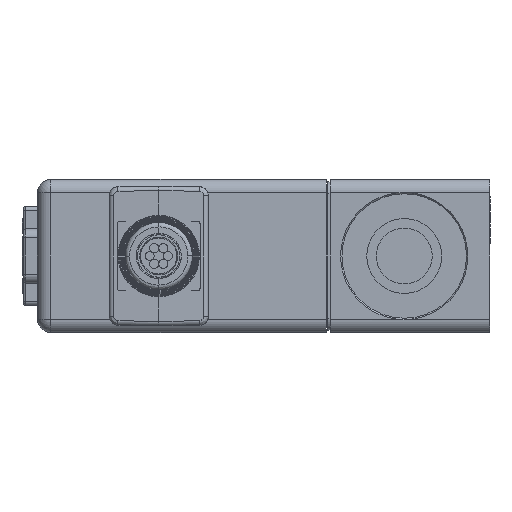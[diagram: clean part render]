
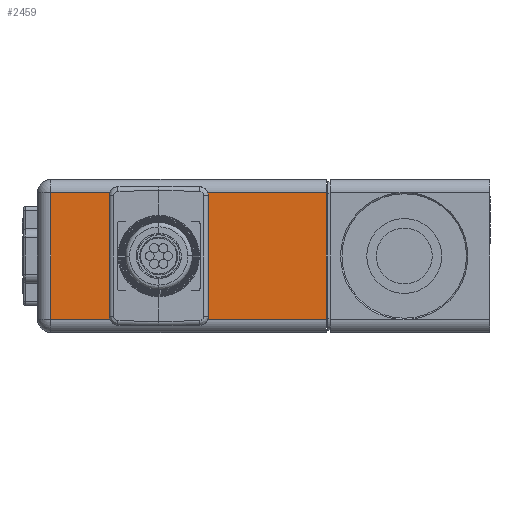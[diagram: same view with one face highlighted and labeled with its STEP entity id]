
A CAD part, left-side view. The second image highlights one B-rep face of the part: STEP entity #2459.
In plain terms, the highlighted planar face has unit normal (-1, 0, 0).
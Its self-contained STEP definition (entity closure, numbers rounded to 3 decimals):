
#2459=ADVANCED_FACE('',(#5244,#5245),#5246,.T.);
#5244=FACE_BOUND('',#10460,.T.);
#5245=FACE_OUTER_BOUND('',#10461,.T.);
#5246=PLANE('',#10462);
#10460=EDGE_LOOP('',(#17974,#17975,#17976,#17977,#17978,#17979,#17980,#17981,#17982,#17983,#17984,#17985,#17986,#17987));
#10461=EDGE_LOOP('',(#17988,#17989,#17990,#17991));
#10462=AXIS2_PLACEMENT_3D('',#17992,#17993,#17994);
#17974=ORIENTED_EDGE('',*,*,#24753,.F.);
#17975=ORIENTED_EDGE('',*,*,#24754,.F.);
#17976=ORIENTED_EDGE('',*,*,#24107,.T.);
#17977=ORIENTED_EDGE('',*,*,#24755,.F.);
#17978=ORIENTED_EDGE('',*,*,#24756,.T.);
#17979=ORIENTED_EDGE('',*,*,#24303,.F.);
#17980=ORIENTED_EDGE('',*,*,#24757,.F.);
#17981=ORIENTED_EDGE('',*,*,#24758,.T.);
#17982=ORIENTED_EDGE('',*,*,#24278,.F.);
#17983=ORIENTED_EDGE('',*,*,#23634,.F.);
#17984=ORIENTED_EDGE('',*,*,#24542,.T.);
#17985=ORIENTED_EDGE('',*,*,#24759,.F.);
#17986=ORIENTED_EDGE('',*,*,#23996,.T.);
#17987=ORIENTED_EDGE('',*,*,#24760,.F.);
#17988=ORIENTED_EDGE('',*,*,#24761,.F.);
#17989=ORIENTED_EDGE('',*,*,#24762,.T.);
#17990=ORIENTED_EDGE('',*,*,#24763,.T.);
#17991=ORIENTED_EDGE('',*,*,#24764,.F.);
#17992=CARTESIAN_POINT('',(-27.5,18.15,-8.5));
#17993=DIRECTION('',(-1.0,0.0,0.0));
#17994=DIRECTION('',(0.0,0.0,1.0));
#23634=EDGE_CURVE('',#29888,#29889,#29890,.T.);
#23996=EDGE_CURVE('',#30513,#30514,#30515,.T.);
#24107=EDGE_CURVE('',#30698,#30699,#30700,.T.);
#24278=EDGE_CURVE('',#29889,#30982,#30983,.T.);
#24303=EDGE_CURVE('',#31023,#31025,#31026,.T.);
#24542=EDGE_CURVE('',#29888,#31387,#31388,.T.);
#24753=EDGE_CURVE('',#31696,#31697,#31698,.T.);
#24754=EDGE_CURVE('',#30698,#31696,#31699,.T.);
#24755=EDGE_CURVE('',#31700,#30699,#31701,.T.);
#24756=EDGE_CURVE('',#31700,#31025,#31702,.T.);
#24757=EDGE_CURVE('',#31703,#31023,#31704,.T.);
#24758=EDGE_CURVE('',#31703,#30982,#31705,.T.);
#24759=EDGE_CURVE('',#30513,#31387,#31706,.T.);
#24760=EDGE_CURVE('',#31697,#30514,#31707,.T.);
#24761=EDGE_CURVE('',#31708,#31437,#31709,.T.);
#24762=EDGE_CURVE('',#31708,#31710,#31711,.T.);
#24763=EDGE_CURVE('',#31710,#31712,#31713,.T.);
#24764=EDGE_CURVE('',#31437,#31712,#31714,.T.);
#29888=VERTEX_POINT('',#39523);
#29889=VERTEX_POINT('',#39524);
#29890=LINE('',#39525,#39526);
#30513=VERTEX_POINT('',#40518);
#30514=VERTEX_POINT('',#40519);
#30515=CIRCLE('',#40520,0.5);
#30698=VERTEX_POINT('',#40813);
#30699=VERTEX_POINT('',#40814);
#30700=CIRCLE('',#40815,0.5);
#30982=VERTEX_POINT('',#41270);
#30983=LINE('',#41271,#41272);
#31023=VERTEX_POINT('',#41331);
#31025=VERTEX_POINT('',#41334);
#31026=LINE('',#41335,#41336);
#31387=VERTEX_POINT('',#41979);
#31388=CIRCLE('',#41980,0.5);
#31437=VERTEX_POINT('',#42064);
#31696=VERTEX_POINT('',#42541);
#31697=VERTEX_POINT('',#42542);
#31698=LINE('',#42543,#42544);
#31699=LINE('',#42545,#42546);
#31700=VERTEX_POINT('',#42547);
#31701=LINE('',#42548,#42549);
#31702=CIRCLE('',#42550,0.5);
#31703=VERTEX_POINT('',#42551);
#31704=LINE('',#42552,#42553);
#31705=LINE('',#42554,#42555);
#31706=LINE('',#42556,#42557);
#31707=LINE('',#42558,#42559);
#31708=VERTEX_POINT('',#42560);
#31709=LINE('',#42561,#42562);
#31710=VERTEX_POINT('',#42563);
#31711=LINE('',#42564,#42565);
#31712=VERTEX_POINT('',#42566);
#31713=LINE('',#42567,#42568);
#31714=LINE('',#42569,#42570);
#39523=CARTESIAN_POINT('',(-27.5,40.25,5.05));
#39524=CARTESIAN_POINT('',(-27.5,40.25,3.55));
#39525=CARTESIAN_POINT('',(-27.5,40.25,5.05));
#39526=VECTOR('',#47267,1.0);
#40518=CARTESIAN_POINT('',(-27.5,33.65,5.55));
#40519=CARTESIAN_POINT('',(-27.5,33.15,5.05));
#40520=AXIS2_PLACEMENT_3D('',#47680,#47681,#47682);
#40813=CARTESIAN_POINT('',(-27.5,33.15,-5.05));
#40814=CARTESIAN_POINT('',(-27.5,33.65,-5.55));
#40815=AXIS2_PLACEMENT_3D('',#47822,#47823,#47824);
#41270=CARTESIAN_POINT('',(-27.5,39.95,3.55));
#41271=CARTESIAN_POINT('',(-27.5,40.25,3.55));
#41272=VECTOR('',#48038,1.0);
#41331=CARTESIAN_POINT('',(-27.5,40.25,-3.55));
#41334=CARTESIAN_POINT('',(-27.5,40.25,-5.05));
#41335=CARTESIAN_POINT('',(-27.5,40.25,-3.55));
#41336=VECTOR('',#48063,1.0);
#41979=CARTESIAN_POINT('',(-27.5,39.75,5.55));
#41980=AXIS2_PLACEMENT_3D('',#48302,#48303,#48304);
#42064=CARTESIAN_POINT('',(-27.5,48.65,7.0));
#42541=CARTESIAN_POINT('',(-27.5,33.15,-3.55));
#42542=CARTESIAN_POINT('',(-27.5,33.15,3.55));
#42543=CARTESIAN_POINT('',(-27.5,33.15,-3.55));
#42544=VECTOR('',#48539,1.0);
#42545=CARTESIAN_POINT('',(-27.5,33.15,-5.05));
#42546=VECTOR('',#48540,1.0);
#42547=CARTESIAN_POINT('',(-27.5,39.75,-5.55));
#42548=CARTESIAN_POINT('',(-27.5,39.75,-5.55));
#42549=VECTOR('',#48541,1.0);
#42550=AXIS2_PLACEMENT_3D('',#48542,#48543,#48544);
#42551=CARTESIAN_POINT('',(-27.5,39.95,-3.55));
#42552=CARTESIAN_POINT('',(-27.5,39.95,-3.55));
#42553=VECTOR('',#48545,1.0);
#42554=CARTESIAN_POINT('',(-27.5,39.95,-3.55));
#42555=VECTOR('',#48546,1.0);
#42556=CARTESIAN_POINT('',(-27.5,33.65,5.55));
#42557=VECTOR('',#48547,1.0);
#42558=CARTESIAN_POINT('',(-27.5,33.15,3.55));
#42559=VECTOR('',#48548,1.0);
#42560=CARTESIAN_POINT('',(-27.5,48.65,-7.0));
#42561=CARTESIAN_POINT('',(-27.5,48.65,-7.0));
#42562=VECTOR('',#48549,1.0);
#42563=CARTESIAN_POINT('',(-27.5,18.15,-7.0));
#42564=CARTESIAN_POINT('',(-27.5,48.65,-7.0));
#42565=VECTOR('',#48550,1.0);
#42566=CARTESIAN_POINT('',(-27.5,18.15,7.0));
#42567=CARTESIAN_POINT('',(-27.5,18.15,-7.0));
#42568=VECTOR('',#48551,1.0);
#42569=CARTESIAN_POINT('',(-27.5,48.65,7.0));
#42570=VECTOR('',#48552,1.0);
#47267=DIRECTION('',(0.0,0.0,-1.0));
#47680=CARTESIAN_POINT('',(-27.5,33.65,5.05));
#47681=DIRECTION('',(1.0,0.0,-0.0));
#47682=DIRECTION('',(0.0,0.0,1.0));
#47822=CARTESIAN_POINT('',(-27.5,33.65,-5.05));
#47823=DIRECTION('',(1.0,0.0,0.0));
#47824=DIRECTION('',(0.0,-1.0,0.0));
#48038=DIRECTION('',(0.0,-1.0,0.0));
#48063=DIRECTION('',(0.0,0.0,-1.0));
#48302=CARTESIAN_POINT('',(-27.5,39.75,5.05));
#48303=DIRECTION('',(1.0,0.0,0.0));
#48304=DIRECTION('',(0.0,1.0,0.0));
#48539=DIRECTION('',(0.0,0.0,1.0));
#48540=DIRECTION('',(0.0,0.0,1.0));
#48541=DIRECTION('',(0.0,-1.0,0.0));
#48542=CARTESIAN_POINT('',(-27.5,39.75,-5.05));
#48543=DIRECTION('',(1.0,0.0,0.0));
#48544=DIRECTION('',(0.0,0.0,-1.0));
#48545=DIRECTION('',(0.0,1.0,0.0));
#48546=DIRECTION('',(0.0,0.0,1.0));
#48547=DIRECTION('',(0.0,1.0,0.0));
#48548=DIRECTION('',(0.0,0.0,1.0));
#48549=DIRECTION('',(0.0,0.0,1.0));
#48550=DIRECTION('',(0.0,-1.0,0.0));
#48551=DIRECTION('',(0.0,0.0,1.0));
#48552=DIRECTION('',(0.0,-1.0,0.0));
